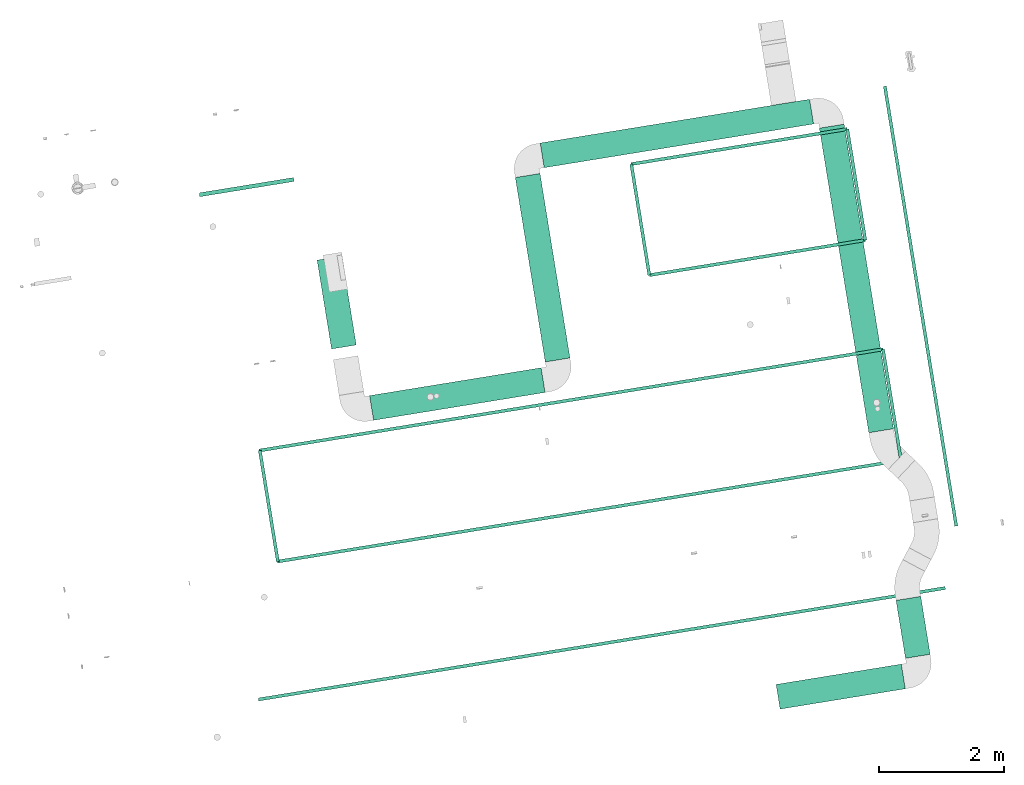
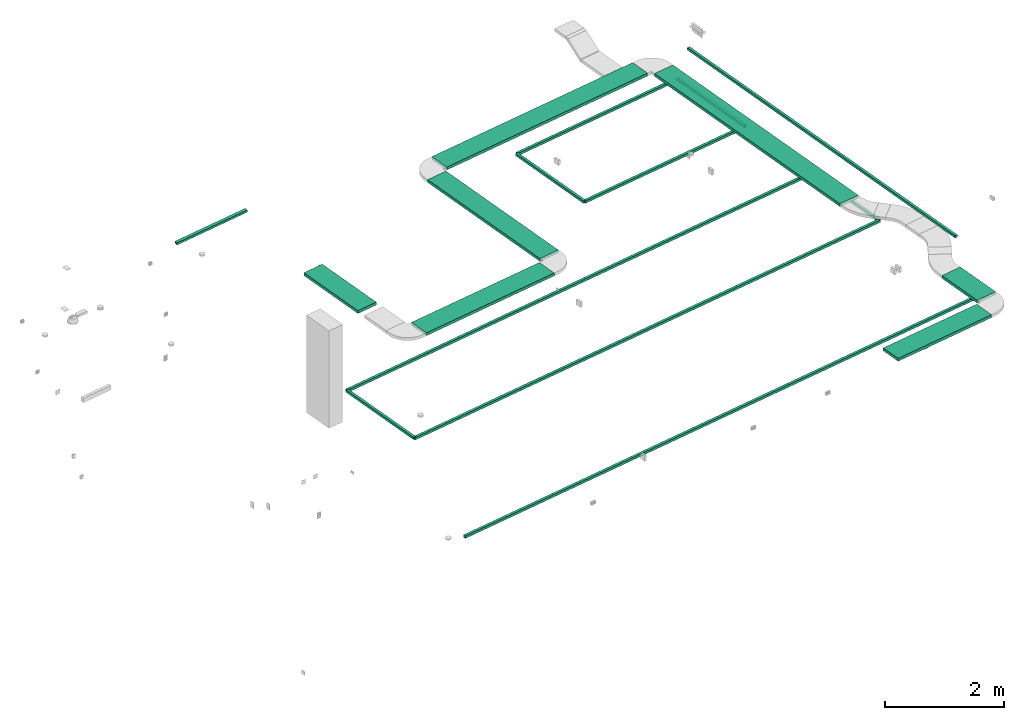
# One storey, part 1 of 20: 17 flow segments, 1 flow terminal.
"""IFC2X3 building model written with IfcOpenShell, lengths in millimetres."""

from ifc_helpers import new_model, entity, si_unit, converted_unit, derived_unit, direction, frame, frame_2d, origin, origin_with_axes, origin_2d_with_axis, place, context, subcontext, project, spatial, rectangle, extrude, source, transform, mapped, material, type_object, element, save


model = new_model("IFC2X3")

# Units and contexts
model_context = context("Model", 3, precision=0.01, world=origin(), true_north=direction((6.12323399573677e-17, 1.0)))
plan_context = context("Plan", 3, precision=1e-05, world=origin_with_axes())
body_context = subcontext(model_context, "Body", "Model", "MODEL_VIEW")
ifc_project = project(units=[converted_unit("PLANEANGLEUNIT", "DEGREE", entity("IfcPositiveLengthMeasure", 0.0174532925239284), si_unit("PLANEANGLEUNIT", "RADIAN"), dimensions=[0, 0, 0, 0, 0, 0, 0]), si_unit("AREAUNIT", "SQUARE_METRE"), si_unit("LENGTHUNIT", "METRE", prefix="MILLI"), si_unit("MASSUNIT", "GRAM", prefix="KILO"), si_unit("POWERUNIT", "WATT"), si_unit("PRESSUREUNIT", "PASCAL", prefix="KILO"), si_unit("FORCEUNIT", "NEWTON", prefix="KILO"), si_unit("ELECTRICVOLTAGEUNIT", "VOLT"), si_unit("ELECTRICCURRENTUNIT", "AMPERE"), si_unit("THERMODYNAMICTEMPERATUREUNIT", "DEGREE_CELSIUS"), si_unit("TIMEUNIT", "SECOND"), si_unit("VOLUMEUNIT", "CUBIC_METRE"), derived_unit("LINEARVELOCITYUNIT", [(si_unit("LENGTHUNIT", "METRE"), 1), (si_unit("TIMEUNIT", "SECOND"), -1)]), derived_unit("VOLUMETRICFLOWRATEUNIT", [(si_unit("VOLUMEUNIT", "CUBIC_METRE"), 1), (si_unit("TIMEUNIT", "SECOND"), -1)]), derived_unit("THERMALTRANSMITTANCEUNIT", [(si_unit("POWERUNIT", "WATT"), 1), (si_unit("THERMODYNAMICTEMPERATUREUNIT", "KELVIN"), -1), (si_unit("AREAUNIT", "SQUARE_METRE"), -1)]), derived_unit("SOUNDPRESSUREUNIT", [(si_unit("PRESSUREUNIT", "PASCAL"), 1)])], contexts=[model_context, plan_context])

# Site, building, storey
site_placement = place(None, frame((-0.219946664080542, 0.12226179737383, 0.0), z_axis=(0.0, 0.0, 1.0), x_axis=(-0.160236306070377, 0.987078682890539, 0.0)))
site = spatial("IfcSite", under=ifc_project, at=site_placement, Name="Default", CompositionType="ELEMENT")
building_placement = place(site_placement, origin_with_axes())
building = spatial("IfcBuilding", under=site, at=building_placement, CompositionType="ELEMENT")
storey_placement = place(building_placement, frame((0.0, 0.0, 50999.9999999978), z_axis=(0.0, 0.0, 1.0), x_axis=(1.0, 0.0, 0.0)))
storey = spatial("IfcBuildingStorey", under=building, at=storey_placement, Name="Nivå D", CompositionType="ELEMENT", Elevation=50999.9999999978)

# Flow terminal
ifc_material = material(Name="<Unnamed>")
light_fixture_type = type_object("IfcLightFixtureType", Name="Teknisk tak utenpåliggende LED4000lm bredstrålende:-UP1113 Teknisk tak LED4000lm WB", PredefinedType="NOTDEFINED", material=ifc_material)
shared_shape = source(origin(), body_context, "Body", "SweptSolid", [
    extrude(rectangle(XDim=1528.0, YDim=62.9999999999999, at=origin_2d_with_axis()), frame((0.0, 0.0, -45.0)), (0.0, 0.0, 1.0), 45.0),
])
flow_terminal_placement = place(storey_placement, frame((778487.619644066, -593076.721204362, 3610.0), z_axis=(0.0, 0.0, 1.0), x_axis=(0.0, -1.0, 0.0)))
element("IfcFlowTerminal", 1, at=flow_terminal_placement, inside=storey, type_object=light_fixture_type, material=ifc_material, Name="Teknisk tak utenpåliggende LED4000lm bredstrålende:-UP1113 Teknisk tak LED4000lm WB", ObjectType="Teknisk tak utenpåliggende LED4000lm bredstrålende:-UP1113 Teknisk tak LED4000lm WB", context=body_context, shape_type="MappedRepresentation", body=[
    mapped(shared_shape, transform((0.0, 0.0, 0.0), scale=1.0)),
])

# Flow segments
cable_carrier_segment_type_1 = type_object("IfcCableCarrierSegmentType", Name="Cable Tray with Fittings:Kabelbro", PredefinedType="CABLETRAYSEGMENT")
flow_segment_1_placement = place(storey_placement, origin_with_axes())
element("IfcFlowSegment", 2, at=flow_segment_1_placement, inside=storey, type_object=cable_carrier_segment_type_1, Name="Cable Tray with Fittings:Kabelbro", ObjectType="Cable Tray with Fittings:Kabelbro", context=body_context, shape_type="SweptSolid", body=[
    extrude(rectangle(XDim=2029.00000000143, YDim=399.999999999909, at=origin_2d_with_axis()), frame((769077.619644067, -601176.980498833, 2895.0), z_axis=(0.0, 0.0, 1.0), x_axis=(0.0, 1.0, 0.0)), (0.0, 0.0, 1.0), 60.0000000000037),
])
flow_segment_2_placement = place(storey_placement, origin_with_axes())
element("IfcFlowSegment", 3, at=flow_segment_2_placement, inside=storey, type_object=cable_carrier_segment_type_1, Name="Cable Tray with Fittings:Kabelbro", ObjectType="Cable Tray with Fittings:Kabelbro", context=body_context, shape_type="SweptSolid", body=[
    extrude(rectangle(XDim=4936.24285254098, YDim=400.000000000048, at=frame_2d((-6.93489710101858e-11, 0.0), x_axis=(1.0, 0.0))), frame((775482.746293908, -602472.480498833, 2895.0), z_axis=(0.0, 0.0, 1.0), x_axis=(-1.0, 0.0, 0.0)), (0.0, 0.0, 1.0), 60.0000000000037),
])
flow_segment_3_placement = place(storey_placement, origin_with_axes())
element("IfcFlowSegment", 4, at=flow_segment_3_placement, inside=storey, type_object=cable_carrier_segment_type_1, Name="Cable Tray with Fittings:Kabelbro", ObjectType="Cable Tray with Fittings:Kabelbro", context=body_context, shape_type="SweptSolid", body=[
    extrude(rectangle(XDim=4366.30977912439, YDim=399.999999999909, at=origin_2d_with_axis()), frame((778231.867720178, -600008.325609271, 2895.0), z_axis=(0.0, 0.0, 1.0), x_axis=(0.0, 1.0, 0.0)), (0.0, 0.0, 1.0), 60.0000000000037),
])
flow_segment_4_placement = place(storey_placement, origin_with_axes())
element("IfcFlowSegment", 5, at=flow_segment_4_placement, inside=storey, type_object=cable_carrier_segment_type_1, Name="Cable Tray with Fittings:Kabelbro", ObjectType="Cable Tray with Fittings:Kabelbro", context=body_context, shape_type="SweptSolid", body=[
    extrude(rectangle(XDim=2989.39826068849, YDim=400.000000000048, at=frame_2d((6.92352841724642e-11, 0.0), x_axis=(1.0, 0.0))), frame((776456.168589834, -597544.170719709, 2895.0), z_axis=(0.0, 0.0, 1.0), x_axis=(-1.0, 0.0, 0.0)), (0.0, 0.0, 1.0), 60.0000000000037),
])
flow_segment_5_placement = place(storey_placement, origin_with_axes())
element("IfcFlowSegment", 6, at=flow_segment_5_placement, inside=storey, type_object=cable_carrier_segment_type_1, Name="Cable Tray with Fittings:Kabelbro", ObjectType="Cable Tray with Fittings:Kabelbro", context=body_context, shape_type="SweptSolid", body=[
    extrude(rectangle(XDim=2779.69022087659, YDim=399.999999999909, at=frame_2d((3.46744855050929e-11, 6.93063384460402e-11), x_axis=(1.0, 0.0))), frame((774680.46945949, -595873.325609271, 2895.0), z_axis=(0.0, 0.0, 1.0), x_axis=(0.0, 1.0, 0.0)), (0.0, 0.0, 1.0), 60.0000000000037),
])
flow_segment_6_placement = place(storey_placement, origin_with_axes())
element("IfcFlowSegment", 7, at=flow_segment_6_placement, inside=storey, type_object=cable_carrier_segment_type_1, Name="Cable Tray with Fittings:Kabelbro", ObjectType="Cable Tray with Fittings:Kabelbro", context=body_context, shape_type="SweptSolid", body=[
    extrude(rectangle(XDim=1439.99999999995, YDim=400.000000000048, at=origin_2d_with_axis()), frame((776434.192608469, -594202.480498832, 2895.0)), (0.0, 0.0, 1.0), 60.0000000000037),
])
flow_segment_7_placement = place(storey_placement, origin_with_axes())
element("IfcFlowSegment", 8, at=flow_segment_7_placement, inside=storey, type_object=cable_carrier_segment_type_1, Name="Cable Tray with Fittings:Kabelbro", ObjectType="Cable Tray with Fittings:Kabelbro", context=body_context, shape_type="SweptSolid", body=[
    extrude(rectangle(XDim=938.284745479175, YDim=400.000000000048, at=frame_2d((-6.9292127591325e-11, 0.0), x_axis=(1.0, 0.0))), frame((769827.762016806, -602472.480498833, 2895.0), z_axis=(0.0, 0.0, 1.0), x_axis=(-1.0, 0.0, 0.0)), (0.0, 0.0, 1.0), 60.0000000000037),
])
cable_carrier_segment_type_2 = type_object("IfcCableCarrierSegmentType", Name="Cable Tray with Fittings:Spotskinne", PredefinedType="CABLETRAYSEGMENT")
flow_segment_8_placement = place(storey_placement, origin_with_axes())
element("IfcFlowSegment", 9, at=flow_segment_8_placement, inside=storey, type_object=cable_carrier_segment_type_2, Name="Cable Tray with Fittings:Spotskinne", ObjectType="Cable Tray with Fittings:Spotskinne", context=body_context, shape_type="SweptSolid", body=[
    extrude(rectangle(XDim=11130.0, YDim=50.0000000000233, at=origin_2d_with_axis()), frame((770366.619644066, -597515.632624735, 2095.0), z_axis=(0.0, 0.0, 1.0), x_axis=(0.0, 1.0, 0.0)), (0.0, 0.0, 1.0), 50.000000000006),
])
flow_segment_9_placement = place(storey_placement, origin_with_axes())
element("IfcFlowSegment", 10, at=flow_segment_9_placement, inside=storey, type_object=cable_carrier_segment_type_2, Name="Cable Tray with Fittings:Spotskinne", ObjectType="Cable Tray with Fittings:Spotskinne", context=body_context, shape_type="SweptSolid", body=[
    extrude(rectangle(XDim=1800.00000000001, YDim=50.0000000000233, at=frame_2d((0.0, -3.46531692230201e-11), x_axis=(1.0, 0.0))), frame((776965.408644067, -602709.973479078, 2675.0), z_axis=(0.0, 0.0, 1.0), x_axis=(-1.0, 0.0, 0.0)), (0.0, 0.0, 1.0), 50.000000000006),
])
flow_segment_10_placement = place(storey_placement, origin_with_axes())
element("IfcFlowSegment", 11, at=flow_segment_10_placement, inside=storey, type_object=cable_carrier_segment_type_2, Name="Cable Tray with Fittings:Spotskinne", ObjectType="Cable Tray with Fittings:Spotskinne", context=body_context, shape_type="SweptSolid", body=[
    extrude(rectangle(XDim=1800.00000000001, YDim=50.0000000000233, at=frame_2d((0.0, -3.46531692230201e-11), x_axis=(1.0, 0.0))), frame((776965.408644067, -599209.973479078, 2675.0), z_axis=(0.0, 0.0, 1.0), x_axis=(-1.0, 0.0, 0.0)), (0.0, 0.0, 1.0), 50.000000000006),
])
flow_segment_11_placement = place(storey_placement, origin_with_axes())
element("IfcFlowSegment", 12, at=flow_segment_11_placement, inside=storey, type_object=cable_carrier_segment_type_2, Name="Cable Tray with Fittings:Spotskinne", ObjectType="Cable Tray with Fittings:Spotskinne", context=body_context, shape_type="SweptSolid", body=[
    extrude(rectangle(XDim=3500.00000000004, YDim=50.0000000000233, at=frame_2d((3.46744855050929e-11, 6.93027857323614e-11), x_axis=(1.0, 0.0))), frame((776065.408644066, -600959.973479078, 2675.0), z_axis=(0.0, 0.0, 1.0), x_axis=(0.0, -1.0, 0.0)), (0.0, 0.0, 1.0), 50.000000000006),
])
flow_segment_12_placement = place(storey_placement, origin_with_axes())
element("IfcFlowSegment", 13, at=flow_segment_12_placement, inside=storey, type_object=cable_carrier_segment_type_2, Name="Cable Tray with Fittings:Spotskinne", ObjectType="Cable Tray with Fittings:Spotskinne", context=body_context, shape_type="SweptSolid", body=[
    extrude(rectangle(XDim=3500.00000000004, YDim=50.0000000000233, at=frame_2d((3.46744855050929e-11, 6.93027857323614e-11), x_axis=(1.0, 0.0))), frame((777865.408644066, -600959.973479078, 2675.0), z_axis=(0.0, 0.0, 1.0), x_axis=(0.0, -1.0, 0.0)), (0.0, 0.0, 1.0), 50.000000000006),
])
flow_segment_13_placement = place(storey_placement, origin_with_axes())
element("IfcFlowSegment", 14, at=flow_segment_13_placement, inside=storey, type_object=cable_carrier_segment_type_2, Name="Cable Tray with Fittings:Spotskinne", ObjectType="Cable Tray with Fittings:Spotskinne", context=body_context, shape_type="SweptSolid", body=[
    extrude(rectangle(XDim=1800.00000000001, YDim=50.0000000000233, at=frame_2d((0.0, -3.46531692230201e-11), x_axis=(1.0, 0.0))), frame((773395.699644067, -602709.973479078, 2675.0), z_axis=(0.0, 0.0, 1.0), x_axis=(-1.0, 0.0, 0.0)), (0.0, 0.0, 1.0), 50.000000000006),
])
flow_segment_14_placement = place(storey_placement, origin_with_axes())
element("IfcFlowSegment", 15, at=flow_segment_14_placement, inside=storey, type_object=cable_carrier_segment_type_2, Name="Cable Tray with Fittings:Spotskinne", ObjectType="Cable Tray with Fittings:Spotskinne", context=body_context, shape_type="SweptSolid", body=[
    extrude(rectangle(XDim=1800.00000000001, YDim=50.0000000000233, at=frame_2d((0.0, 3.46531692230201e-11), x_axis=(1.0, 0.0))), frame((773395.699644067, -592609.973479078, 2675.0), z_axis=(0.0, 0.0, 1.0), x_axis=(-1.0, 0.0, 0.0)), (0.0, 0.0, 1.0), 50.000000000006),
])
flow_segment_15_placement = place(storey_placement, origin_with_axes())
element("IfcFlowSegment", 16, at=flow_segment_15_placement, inside=storey, type_object=cable_carrier_segment_type_2, Name="Cable Tray with Fittings:Spotskinne", ObjectType="Cable Tray with Fittings:Spotskinne", context=body_context, shape_type="SweptSolid", body=[
    extrude(rectangle(XDim=10110.0, YDim=50.0000000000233, at=frame_2d((-3.45607986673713e-11, -6.93027857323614e-11), x_axis=(1.0, 0.0))), frame((772495.699644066, -597654.973479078, 2675.0), z_axis=(0.0, 0.0, 1.0), x_axis=(0.0, -1.0, 0.0)), (0.0, 0.0, 1.0), 50.000000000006),
])
flow_segment_16_placement = place(storey_placement, origin_with_axes())
element("IfcFlowSegment", 17, at=flow_segment_16_placement, inside=storey, type_object=cable_carrier_segment_type_2, Name="Cable Tray with Fittings:Spotskinne", ObjectType="Cable Tray with Fittings:Spotskinne", context=body_context, shape_type="SweptSolid", body=[
    extrude(rectangle(XDim=10110.0, YDim=50.0000000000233, at=frame_2d((-3.45607986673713e-11, -6.93027857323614e-11), x_axis=(1.0, 0.0))), frame((774295.699644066, -597654.973479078, 2675.0), z_axis=(0.0, 0.0, 1.0), x_axis=(0.0, -1.0, 0.0)), (0.0, 0.0, 1.0), 50.000000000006),
])
cable_carrier_segment_type_3 = type_object("IfcCableCarrierSegmentType", Name="Cable Tray with Fittings:Armaturskinne", PredefinedType="CABLETRAYSEGMENT")
flow_segment_17_placement = place(storey_placement, origin_with_axes())
element("IfcFlowSegment", 18, at=flow_segment_17_placement, inside=storey, type_object=cable_carrier_segment_type_3, Name="Cable Tray with Fittings:Armaturskinne", ObjectType="Cable Tray with Fittings:Armaturskinne", context=body_context, shape_type="SweptSolid", body=[
    extrude(rectangle(XDim=7129.99999999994, YDim=50.0000000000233, at=frame_2d((0.0, 3.46531692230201e-11), x_axis=(1.0, 0.0))), frame((774881.419644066, -603413.480498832, 2675.0), z_axis=(0.0, 0.0, 1.0), x_axis=(-1.0, 0.0, 0.0)), (0.0, 0.0, 1.0), 50.000000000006),
])

save(model, "model.ifc")
